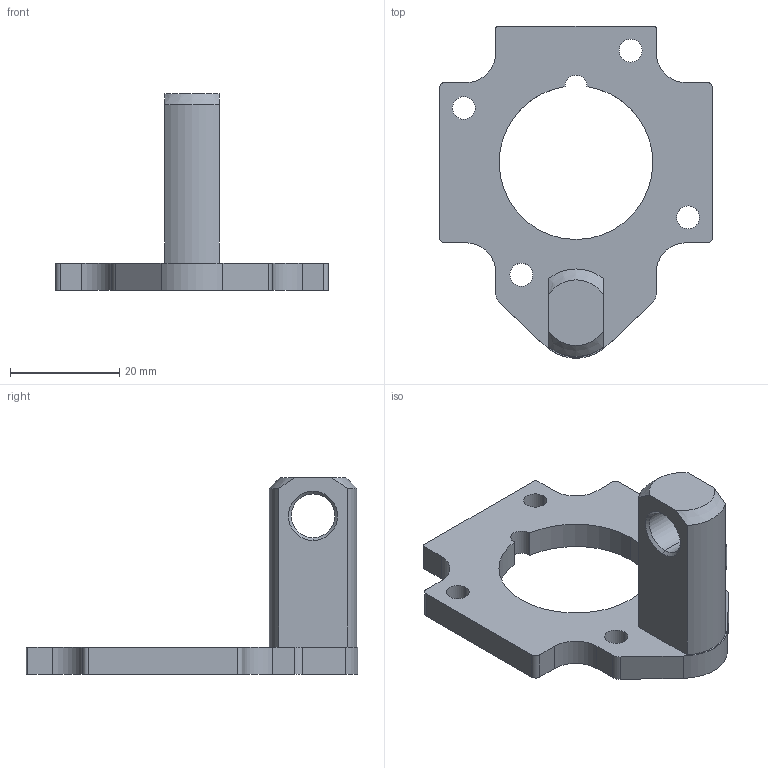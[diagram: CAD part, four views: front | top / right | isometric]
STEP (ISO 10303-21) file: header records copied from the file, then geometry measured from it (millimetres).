
FILE_DESCRIPTION (( 'STEP AP203' ), '1' );
FILE_NAME ('S-P0269.STEP', '2018-05-22T14:03:59', ( '' ), ( '' ), 'SwSTEP 2.0', 'SolidWorks 2018', '' );
FILE_SCHEMA (( 'CONFIG_CONTROL_DESIGN' ));
Length unit declared in the file: millimetre
Products named in the file (1): S-P0269
Bounding box: 50 x 60.72 x 36 mm (x, y, z)
Volume: 12051.8 mm3; surface area: 6448.5 mm2
Topology: 1 solids, 1 shells, 55 faces, 152 edges, 100 vertices
Faces by surface type: cylinder 31, plane 18, cone 6
Entity records: 1895 total; most frequent: DIRECTION 328, CARTESIAN_POINT 328, ORIENTED_EDGE 304, EDGE_CURVE 152, AXIS2_PLACEMENT_3D 124, VERTEX_POINT 100, VECTOR 80, LINE 80
